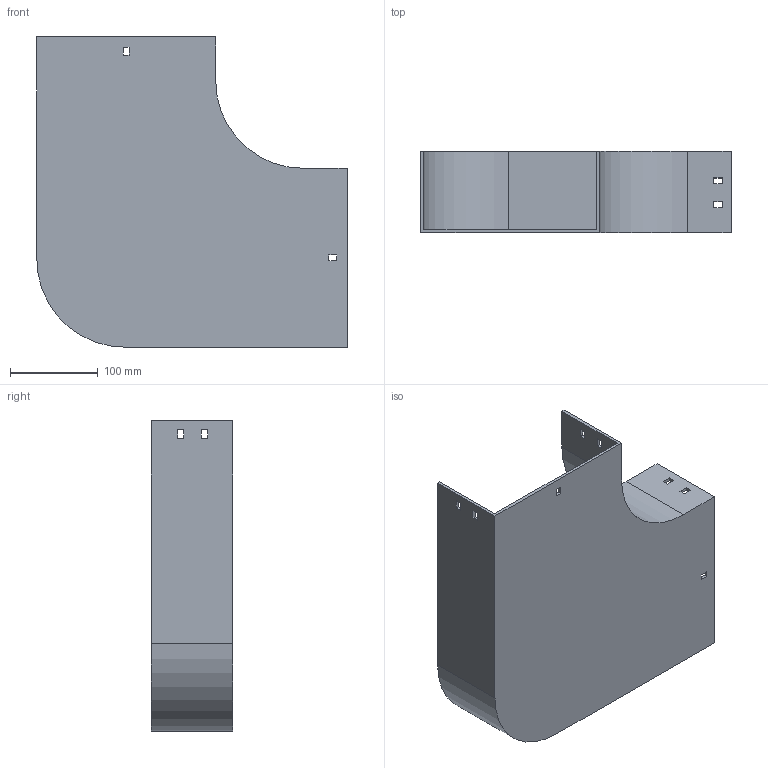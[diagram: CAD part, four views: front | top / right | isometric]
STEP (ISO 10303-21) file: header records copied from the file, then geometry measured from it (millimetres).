
FILE_DESCRIPTION (( 'STEP AP214' ), '1' );
FILE_NAME ('10B1I200.step', '2025-02-21T09:42:06', ( '' ), ( '' ), 'SwSTEP 2.0', 'SolidWorks 2023', '' );
FILE_SCHEMA (( 'AUTOMOTIVE_DESIGN' ));
Length unit declared in the file: millimetre
Products named in the file (1): 10B1I200
Bounding box: 354 x 92.5 x 354 mm (x, y, z)
Volume: 644739.1 mm3; surface area: 375492.9 mm2
Topology: 1 solids, 1 shells, 58 faces, 168 edges, 112 vertices
Faces by surface type: plane 54, cylinder 4
Entity records: 1943 total; most frequent: CARTESIAN_POINT 339, ORIENTED_EDGE 336, DIRECTION 294, EDGE_CURVE 168, LINE 160, VECTOR 160, VERTEX_POINT 112, EDGE_LOOP 78
